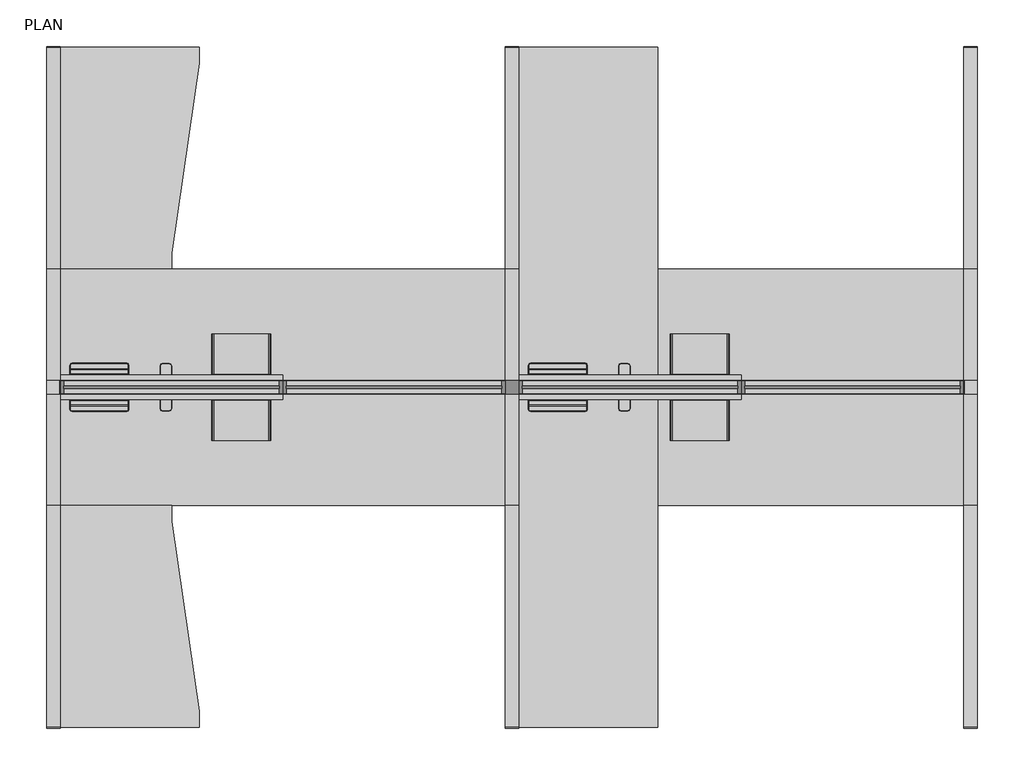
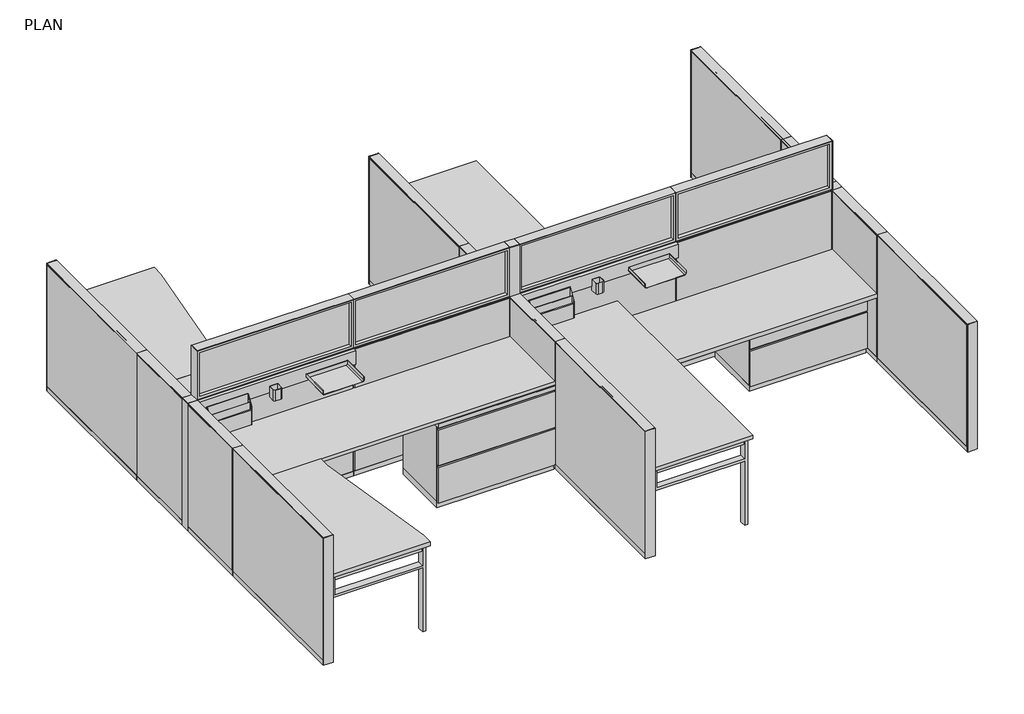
# One storey, incomplete: 51 furniture elements.
"""IFC4 building model written with IfcOpenShell, lengths in millimetres."""

from ifc_helpers import new_model, si_unit, origin, place, context, project, spatial, transform, mapped, element, save
from components import furniture_4366de90, furniture_c20d03a0, furniture_1deb3490, furniture_cbb8c3fb, haworth_belong_tool_cup_tool_cup_314b2932, haworth_belong_tool_cup_tool_cup_d6d42e5e, haworth_belong_tool_hanging_sorter_sorter_b643d65a, haworth_belong_tool_hanging_sorter_sorter_caf348c0, haworth_belong_tool_rail_belong_tool_rail_3fa934fc, haworth_belong_tool_rail_belong_tool_rail_29e77153, haworth_belong_tool_tray_shelf_hanging_document_tray_419b277c, haworth_belong_tool_tray_shelf_hanging_document_tray_81856eff, furniture_2538487b, furniture_432d4c5d, furniture_c4d0c9cf, furniture_53800ec9, furniture_b91f1926, furniture_50596205, furniture_6891fcb2, furniture_921a7b7d, furniture_8154873b, furniture_be341e5f, furniture_03610c70, furniture_a718f5ee, haworth_worksurface_compose_rectangular_85a0d244, haworth_worksurface_compose_rectangular_cbff0102, haworth_worksurface_compose_rectangular_214f8582, haworth_worksurface_compose_rectangular_7fee4319, furniture_72de7cf3, furniture_66076b28

model = new_model("IFC4")

# Units and contexts
model_context = context("Model", 3, world=origin())
ifc_project = project(units=[si_unit("LENGTHUNIT", "METRE", prefix="MILLI")], contexts=[model_context])

# Site, building, storey
site = spatial("IfcSite", under=ifc_project)
building = spatial("IfcBuilding", under=site)
storey = spatial("IfcBuildingStorey", under=building, Name="PLAN", Elevation=30480.0)

# Furniture
placement = place(None, origin())
furniture_shape = furniture_4366de90(model_context)
element("IfcFurniture", 1, ObjectType="Haworth_XSeries-Lateral_Files : 1.5 High - 36\" Width Proud", at=placement, inside=storey, context=model_context, shape_type="MappedRepresentation", body=[
    mapped(furniture_shape, transform((-8430.8149372, -24421.6388797, 30480.0), x_axis=(1.0, 0.0, 0.0), y_axis=(0.0, 1.0, 0.0), z_axis=(0.0, 0.0, 1.0))),
])
furniture_2_shape = furniture_c20d03a0(model_context)
element("IfcFurniture", 2, ObjectType="Haworth_XSeries-Lateral_Files : 1.5 High - 36\" Width Proud", at=placement, inside=storey, context=model_context, shape_type="MappedRepresentation", body=[
    mapped(furniture_2_shape, transform((-8430.8149372, -24345.4388797, 30480.0), x_axis=(1.0, 0.0, 0.0), y_axis=(0.0, 1.0, 0.0), z_axis=(0.0, 0.0, 1.0))),
])
furniture_3_shape = furniture_1deb3490(model_context)
element("IfcFurniture", 3, ObjectType="Haworth_XSeries-Lateral_Files : 2 High - 36\" Width Proud", at=placement, inside=storey, context=model_context, shape_type="MappedRepresentation", body=[
    mapped(furniture_3_shape, transform((-10943.8274372, -24212.0888797, 30480.0), x_axis=(1.0, 0.0, 0.0), y_axis=(0.0, 1.0, 0.0), z_axis=(0.0, 0.0, 1.0))),
])
furniture_4_shape = furniture_cbb8c3fb(model_context)
element("IfcFurniture", 4, ObjectType="Haworth_XSeries-Lateral_Files : 2 High - 36\" Width Proud", at=placement, inside=storey, context=model_context, shape_type="MappedRepresentation", body=[
    mapped(furniture_4_shape, transform((-10943.8274372, -24554.9888797, 30480.0), x_axis=(1.0, 0.0, 0.0), y_axis=(0.0, 1.0, 0.0), z_axis=(0.0, 0.0, 1.0))),
])
haworth_belong_tool_cup_tool_cup_shape = haworth_belong_tool_cup_tool_cup_314b2932(model_context)
element("IfcFurniture", 5, ObjectType="Haworth_Belong-Tool_Cup : Tool Cup", at=placement, inside=storey, context=model_context, shape_type="MappedRepresentation", body=[
    mapped(haworth_belong_tool_cup_tool_cup_shape, transform((-12513.8649372, -24450.2138797, 31397.575), x_axis=(1.0, 0.0, 0.0), y_axis=(0.0, 1.0, 0.0), z_axis=(0.0, 0.0, 1.0))),
])
element("IfcFurniture", 6, ObjectType="Haworth_Belong-Tool_Cup : Tool Cup", at=placement, inside=storey, context=model_context, shape_type="MappedRepresentation", body=[
    mapped(haworth_belong_tool_cup_tool_cup_shape, transform((-9999.2649372, -24450.2138797, 31397.575), x_axis=(1.0, 0.0, 0.0), y_axis=(0.0, 1.0, 0.0), z_axis=(0.0, 0.0, 1.0))),
])
haworth_belong_tool_cup_tool_cup_2_shape = haworth_belong_tool_cup_tool_cup_d6d42e5e(model_context)
element("IfcFurniture", 7, ObjectType="Haworth_Belong-Tool_Cup : Tool Cup", at=placement, inside=storey, context=model_context, shape_type="MappedRepresentation", body=[
    mapped(haworth_belong_tool_cup_tool_cup_2_shape, transform((-9999.2649372, -24316.8638797, 31397.575), x_axis=(1.0, 0.0, 0.0), y_axis=(0.0, 1.0, 0.0), z_axis=(0.0, 0.0, 1.0))),
])
element("IfcFurniture", 8, ObjectType="Haworth_Belong-Tool_Cup : Tool Cup", at=placement, inside=storey, context=model_context, shape_type="MappedRepresentation", body=[
    mapped(haworth_belong_tool_cup_tool_cup_2_shape, transform((-12513.8649372, -24316.8638797, 31397.575), x_axis=(1.0, 0.0, 0.0), y_axis=(0.0, 1.0, 0.0), z_axis=(0.0, 0.0, 1.0))),
])
haworth_belong_tool_hanging_sorter_sorter_shape = haworth_belong_tool_hanging_sorter_sorter_b643d65a(model_context)
element("IfcFurniture", 9, ObjectType="Haworth_Belong-Tool_Hanging-Sorter : Sorter", at=placement, inside=storey, context=model_context, shape_type="MappedRepresentation", body=[
    mapped(haworth_belong_tool_hanging_sorter_sorter_shape, transform((-12878.0040101, -24453.3888797, 31270.575), x_axis=(1.0, 0.0, 0.0), y_axis=(0.0, 1.0, 0.0), z_axis=(0.0, 0.0, 1.0))),
])
element("IfcFurniture", 10, ObjectType="Haworth_Belong-Tool_Hanging-Sorter : Sorter", at=placement, inside=storey, context=model_context, shape_type="MappedRepresentation", body=[
    mapped(haworth_belong_tool_hanging_sorter_sorter_shape, transform((-10363.4040101, -24453.3888797, 31270.575), x_axis=(1.0, 0.0, 0.0), y_axis=(0.0, 1.0, 0.0), z_axis=(0.0, 0.0, 1.0))),
])
haworth_belong_tool_hanging_sorter_sorter_2_shape = haworth_belong_tool_hanging_sorter_sorter_caf348c0(model_context)
element("IfcFurniture", 11, ObjectType="Haworth_Belong-Tool_Hanging-Sorter : Sorter", at=placement, inside=storey, context=model_context, shape_type="MappedRepresentation", body=[
    mapped(haworth_belong_tool_hanging_sorter_sorter_2_shape, transform((-10363.4040101, -24313.6888797, 31270.575), x_axis=(1.0, 0.0, 0.0), y_axis=(0.0, 1.0, 0.0), z_axis=(0.0, 0.0, 1.0))),
])
element("IfcFurniture", 12, ObjectType="Haworth_Belong-Tool_Hanging-Sorter : Sorter", at=placement, inside=storey, context=model_context, shape_type="MappedRepresentation", body=[
    mapped(haworth_belong_tool_hanging_sorter_sorter_2_shape, transform((-12878.0040101, -24313.6888797, 31270.575), x_axis=(1.0, 0.0, 0.0), y_axis=(0.0, 1.0, 0.0), z_axis=(0.0, 0.0, 1.0))),
])
haworth_belong_tool_rail_belong_tool_rail_shape = haworth_belong_tool_rail_belong_tool_rail_3fa934fc(model_context)
element("IfcFurniture", 13, ObjectType="Haworth_Belong-Tool_Rail : Belong Tool Rail", at=placement, inside=storey, context=model_context, shape_type="MappedRepresentation", body=[
    mapped(haworth_belong_tool_rail_belong_tool_rail_shape, transform((-12317.0149372, -24434.3388797, 30480.0), x_axis=(1.0, 0.0, 0.0), y_axis=(0.0, 1.0, 0.0), z_axis=(0.0, 0.0, 1.0))),
])
element("IfcFurniture", 14, ObjectType="Haworth_Belong-Tool_Rail : Belong Tool Rail", at=placement, inside=storey, context=model_context, shape_type="MappedRepresentation", body=[
    mapped(haworth_belong_tool_rail_belong_tool_rail_shape, transform((-9802.4149372, -24434.3388797, 30480.0), x_axis=(1.0, 0.0, 0.0), y_axis=(0.0, 1.0, 0.0), z_axis=(0.0, 0.0, 1.0))),
])
haworth_belong_tool_rail_belong_tool_rail_2_shape = haworth_belong_tool_rail_belong_tool_rail_29e77153(model_context)
element("IfcFurniture", 15, ObjectType="Haworth_Belong-Tool_Rail : Belong Tool Rail", at=placement, inside=storey, context=model_context, shape_type="MappedRepresentation", body=[
    mapped(haworth_belong_tool_rail_belong_tool_rail_2_shape, transform((-9802.4149372, -24332.7388797, 30480.0), x_axis=(1.0, 0.0, 0.0), y_axis=(0.0, 1.0, 0.0), z_axis=(0.0, 0.0, 1.0))),
])
element("IfcFurniture", 16, ObjectType="Haworth_Belong-Tool_Rail : Belong Tool Rail", at=placement, inside=storey, context=model_context, shape_type="MappedRepresentation", body=[
    mapped(haworth_belong_tool_rail_belong_tool_rail_2_shape, transform((-12317.0149372, -24332.7388797, 30480.0), x_axis=(1.0, 0.0, 0.0), y_axis=(0.0, 1.0, 0.0), z_axis=(0.0, 0.0, 1.0))),
])
haworth_belong_tool_tray_shelf_hanging_document_tray_shape = haworth_belong_tool_tray_shelf_hanging_document_tray_419b277c(model_context)
element("IfcFurniture", 17, ObjectType="Haworth_Belong-Tool_Tray_Shelf : Hanging Document Tray", at=placement, inside=storey, context=model_context, shape_type="MappedRepresentation", body=[
    mapped(haworth_belong_tool_tray_shelf_hanging_document_tray_shape, transform((-12099.2117515, -24450.2138797, 31448.375), x_axis=(1.0, 0.0, 0.0), y_axis=(0.0, 1.0, 0.0), z_axis=(0.0, 0.0, 1.0))),
])
element("IfcFurniture", 18, ObjectType="Haworth_Belong-Tool_Tray_Shelf : Hanging Document Tray", at=placement, inside=storey, context=model_context, shape_type="MappedRepresentation", body=[
    mapped(haworth_belong_tool_tray_shelf_hanging_document_tray_shape, transform((-9584.6117515, -24450.2138797, 31448.375), x_axis=(1.0, 0.0, 0.0), y_axis=(0.0, 1.0, 0.0), z_axis=(0.0, 0.0, 1.0))),
])
haworth_belong_tool_tray_shelf_hanging_document_tray_2_shape = haworth_belong_tool_tray_shelf_hanging_document_tray_81856eff(model_context)
element("IfcFurniture", 19, ObjectType="Haworth_Belong-Tool_Tray_Shelf : Hanging Document Tray", at=placement, inside=storey, context=model_context, shape_type="MappedRepresentation", body=[
    mapped(haworth_belong_tool_tray_shelf_hanging_document_tray_2_shape, transform((-9584.6117515, -24316.8638797, 31448.375), x_axis=(1.0, 0.0, 0.0), y_axis=(0.0, 1.0, 0.0), z_axis=(0.0, 0.0, 1.0))),
])
element("IfcFurniture", 20, ObjectType="Haworth_Belong-Tool_Tray_Shelf : Hanging Document Tray", at=placement, inside=storey, context=model_context, shape_type="MappedRepresentation", body=[
    mapped(haworth_belong_tool_tray_shelf_hanging_document_tray_2_shape, transform((-12099.2117515, -24316.8638797, 31448.375), x_axis=(1.0, 0.0, 0.0), y_axis=(0.0, 1.0, 0.0), z_axis=(0.0, 0.0, 1.0))),
])
furniture_5_shape = furniture_2538487b(model_context)
element("IfcFurniture", 21, ObjectType="Haworth_Compose-Panel-Glass_Stack : 48\" x 16\"", at=placement, inside=storey, context=model_context, shape_type="MappedRepresentation", body=[
    mapped(furniture_5_shape, transform((-9804.8552273, -24383.5388797, 30480.0), x_axis=(1.0, 0.0, 0.0), y_axis=(0.0, 1.0, 0.0), z_axis=(0.0, 0.0, 1.0))),
])
furniture_6_shape = furniture_432d4c5d(model_context)
element("IfcFurniture", 22, ObjectType="Haworth_Compose-Panel-Glass_Stack : 48\" x 16\"", at=placement, inside=storey, context=model_context, shape_type="MappedRepresentation", body=[
    mapped(furniture_6_shape, transform((-11095.374647, -24383.5388797, 30480.0), x_axis=(-1.0, 0.0, 0.0), y_axis=(0.0, -1.0, 0.0), z_axis=(0.0, 0.0, 1.0))),
])
furniture_7_shape = furniture_c4d0c9cf(model_context)
element("IfcFurniture", 23, ObjectType="Haworth_Compose-Panel-Glass_Stack : 48\" x 16\"", at=placement, inside=storey, context=model_context, shape_type="MappedRepresentation", body=[
    mapped(furniture_7_shape, transform((-8580.774647, -24383.5388797, 30480.0), x_axis=(-1.0, 0.0, 0.0), y_axis=(0.0, -1.0, 0.0), z_axis=(0.0, 0.0, 1.0))),
])
furniture_8_shape = furniture_53800ec9(model_context)
element("IfcFurniture", 24, ObjectType="Haworth_Compose-Panel-Glass_Stack : 48\" x 16\"", at=placement, inside=storey, context=model_context, shape_type="MappedRepresentation", body=[
    mapped(furniture_8_shape, transform((-12319.4552273, -24383.5388797, 30480.0), x_axis=(1.0, 0.0, 0.0), y_axis=(0.0, 1.0, 0.0), z_axis=(0.0, 0.0, 1.0))),
])
furniture_9_shape = furniture_b91f1926(model_context)
element("IfcFurniture", 25, ObjectType="Haworth_Compose-Panel-Solid : 42\" x 24\"", at=placement, inside=storey, context=model_context, shape_type="MappedRepresentation", body=[
    mapped(furniture_9_shape, transform((-7935.5149372, -24723.9985895, 30480.0), x_axis=(0.0, -1.0, 0.0), y_axis=(1.0, 0.0, 0.0), z_axis=(0.0, 0.0, 1.0))),
])
element("IfcFurniture", 26, ObjectType="Haworth_Compose-Panel-Solid : 42\" x 24\"", at=placement, inside=storey, context=model_context, shape_type="MappedRepresentation", body=[
    mapped(furniture_9_shape, transform((-10450.1149372, -24723.9985895, 30480.0), x_axis=(0.0, -1.0, 0.0), y_axis=(1.0, 0.0, 0.0), z_axis=(0.0, 0.0, 1.0))),
])
element("IfcFurniture", 27, ObjectType="Haworth_Compose-Panel-Solid : 42\" x 24\"", at=placement, inside=storey, context=model_context, shape_type="MappedRepresentation", body=[
    mapped(furniture_9_shape, transform((-12964.7149372, -24043.0791699, 30480.0), x_axis=(0.0, 1.0, 0.0), y_axis=(-1.0, 0.0, 0.0), z_axis=(0.0, 0.0, 1.0))),
])
furniture_10_shape = furniture_50596205(model_context)
element("IfcFurniture", 28, ObjectType="Haworth_Compose-Panel-Solid : 42\" x 24\"", at=placement, inside=storey, context=model_context, shape_type="MappedRepresentation", body=[
    mapped(furniture_10_shape, transform((-7935.5149372, -24043.0791699, 30480.0), x_axis=(0.0, 1.0, 0.0), y_axis=(-1.0, 0.0, 0.0), z_axis=(0.0, 0.0, 1.0))),
])
element("IfcFurniture", 29, ObjectType="Haworth_Compose-Panel-Solid : 42\" x 24\"", at=placement, inside=storey, context=model_context, shape_type="MappedRepresentation", body=[
    mapped(furniture_10_shape, transform((-10450.1149372, -24043.0791699, 30480.0), x_axis=(0.0, 1.0, 0.0), y_axis=(-1.0, 0.0, 0.0), z_axis=(0.0, 0.0, 1.0))),
])
element("IfcFurniture", 30, ObjectType="Haworth_Compose-Panel-Solid : 42\" x 24\"", at=placement, inside=storey, context=model_context, shape_type="MappedRepresentation", body=[
    mapped(furniture_10_shape, transform((-12964.7149372, -24723.9985895, 30480.0), x_axis=(0.0, -1.0, 0.0), y_axis=(1.0, 0.0, 0.0), z_axis=(0.0, 0.0, 1.0))),
])
furniture_11_shape = furniture_6891fcb2(model_context)
element("IfcFurniture", 31, ObjectType="Haworth_Compose-Panel-Solid : 42\" x 48\"", at=placement, inside=storey, context=model_context, shape_type="MappedRepresentation", body=[
    mapped(furniture_11_shape, transform((-7935.5149372, -25638.3985895, 30480.0), x_axis=(0.0, -1.0, 0.0), y_axis=(1.0, 0.0, 0.0), z_axis=(0.0, 0.0, 1.0))),
])
element("IfcFurniture", 32, ObjectType="Haworth_Compose-Panel-Solid : 42\" x 48\"", at=placement, inside=storey, context=model_context, shape_type="MappedRepresentation", body=[
    mapped(furniture_11_shape, transform((-10450.1149372, -25638.3985895, 30480.0), x_axis=(0.0, -1.0, 0.0), y_axis=(1.0, 0.0, 0.0), z_axis=(0.0, 0.0, 1.0))),
])
element("IfcFurniture", 33, ObjectType="Haworth_Compose-Panel-Solid : 42\" x 48\"", at=placement, inside=storey, context=model_context, shape_type="MappedRepresentation", body=[
    mapped(furniture_11_shape, transform((-12964.7149372, -23128.6791699, 30480.0), x_axis=(0.0, 1.0, 0.0), y_axis=(-1.0, 0.0, 0.0), z_axis=(0.0, 0.0, 1.0))),
])
furniture_12_shape = furniture_921a7b7d(model_context)
element("IfcFurniture", 34, ObjectType="Haworth_Compose-Panel-Solid : 42\" x 48\"", at=placement, inside=storey, context=model_context, shape_type="MappedRepresentation", body=[
    mapped(furniture_12_shape, transform((-11100.2552273, -24383.5388797, 30480.0), x_axis=(1.0, 0.0, 0.0), y_axis=(0.0, 1.0, 0.0), z_axis=(0.0, 0.0, 1.0))),
])
element("IfcFurniture", 35, ObjectType="Haworth_Compose-Panel-Solid : 42\" x 48\"", at=placement, inside=storey, context=model_context, shape_type="MappedRepresentation", body=[
    mapped(furniture_12_shape, transform((-12319.4552273, -24383.5388797, 30480.0), x_axis=(1.0, 0.0, 0.0), y_axis=(0.0, 1.0, 0.0), z_axis=(0.0, 0.0, 1.0))),
])
furniture_13_shape = furniture_8154873b(model_context)
element("IfcFurniture", 36, ObjectType="Haworth_Compose-Panel-Solid : 42\" x 48\"", at=placement, inside=storey, context=model_context, shape_type="MappedRepresentation", body=[
    mapped(furniture_13_shape, transform((-9799.974647, -24383.5388797, 30480.0), x_axis=(-1.0, 0.0, 0.0), y_axis=(0.0, -1.0, 0.0), z_axis=(0.0, 0.0, 1.0))),
])
element("IfcFurniture", 37, ObjectType="Haworth_Compose-Panel-Solid : 42\" x 48\"", at=placement, inside=storey, context=model_context, shape_type="MappedRepresentation", body=[
    mapped(furniture_13_shape, transform((-8580.774647, -24383.5388797, 30480.0), x_axis=(-1.0, 0.0, 0.0), y_axis=(0.0, -1.0, 0.0), z_axis=(0.0, 0.0, 1.0))),
])
furniture_14_shape = furniture_be341e5f(model_context)
element("IfcFurniture", 38, ObjectType="Haworth_Compose-Panel-Solid : 42\" x 48\"", at=placement, inside=storey, context=model_context, shape_type="MappedRepresentation", body=[
    mapped(furniture_14_shape, transform((-7935.5149372, -23128.6791699, 30480.0), x_axis=(0.0, 1.0, 0.0), y_axis=(-1.0, 0.0, 0.0), z_axis=(0.0, 0.0, 1.0))),
])
element("IfcFurniture", 39, ObjectType="Haworth_Compose-Panel-Solid : 42\" x 48\"", at=placement, inside=storey, context=model_context, shape_type="MappedRepresentation", body=[
    mapped(furniture_14_shape, transform((-10450.1149372, -23128.6791699, 30480.0), x_axis=(0.0, 1.0, 0.0), y_axis=(-1.0, 0.0, 0.0), z_axis=(0.0, 0.0, 1.0))),
])
element("IfcFurniture", 40, ObjectType="Haworth_Compose-Panel-Solid : 42\" x 48\"", at=placement, inside=storey, context=model_context, shape_type="MappedRepresentation", body=[
    mapped(furniture_14_shape, transform((-12964.7149372, -25638.3985895, 30480.0), x_axis=(0.0, -1.0, 0.0), y_axis=(1.0, 0.0, 0.0), z_axis=(0.0, 0.0, 1.0))),
])
furniture_15_shape = furniture_03610c70(model_context)
element("IfcFurniture", 41, ObjectType="Haworth_Compose-Panel_Accessories-Post : 42\" High - 3-Way Intersection", at=placement, inside=storey, context=model_context, shape_type="MappedRepresentation", body=[
    mapped(furniture_15_shape, transform((-7973.6149372, -24383.5388797, 30480.0), x_axis=(1.0, 0.0, 0.0), y_axis=(0.0, 1.0, 0.0), z_axis=(0.0, 0.0, 1.0))),
])
element("IfcFurniture", 42, ObjectType="Haworth_Compose-Panel_Accessories-Post : 42\" High - 3-Way Intersection", at=placement, inside=storey, context=model_context, shape_type="MappedRepresentation", body=[
    mapped(furniture_15_shape, transform((-13002.8149372, -24383.5388797, 30480.0), x_axis=(1.0, 0.0, 0.0), y_axis=(0.0, 1.0, 0.0), z_axis=(0.0, 0.0, 1.0))),
])
furniture_16_shape = furniture_a718f5ee(model_context)
element("IfcFurniture", 43, ObjectType="Haworth_Compose-Panel_Accessories-Post : 58\" High - 4-Way Intersection", at=placement, inside=storey, context=model_context, shape_type="MappedRepresentation", body=[
    mapped(furniture_16_shape, transform((-10488.2149372, -24383.5388797, 30480.0), x_axis=(1.0, 0.0, 0.0), y_axis=(0.0, 1.0, 0.0), z_axis=(0.0, 0.0, 1.0))),
])
haworth_worksurface_compose_rectangular_shape = haworth_worksurface_compose_rectangular_85a0d244(model_context)
element("IfcFurniture", 44, ObjectType="Haworth_Worksurface_Compose-Rectangular : 24'' x 96''", at=placement, inside=storey, context=model_context, shape_type="MappedRepresentation", body=[
    mapped(haworth_worksurface_compose_rectangular_shape, transform((-11707.4149372, -24726.4388797, 30480.0), x_axis=(1.0, 0.0, 0.0), y_axis=(0.0, 1.0, 0.0), z_axis=(0.0, 0.0, 1.0))),
])
element("IfcFurniture", 45, ObjectType="Haworth_Worksurface_Compose-Rectangular : 24'' x 96''", at=placement, inside=storey, context=model_context, shape_type="MappedRepresentation", body=[
    mapped(haworth_worksurface_compose_rectangular_shape, transform((-9192.8149372, -24726.4388797, 30319.6625), x_axis=(1.0, 0.0, 0.0), y_axis=(0.0, 1.0, 0.0), z_axis=(0.0, 0.0, 1.0))),
])
haworth_worksurface_compose_rectangular_2_shape = haworth_worksurface_compose_rectangular_cbff0102(model_context)
element("IfcFurniture", 46, ObjectType="Haworth_Worksurface_Compose-Rectangular : 24'' x 96''", at=placement, inside=storey, context=model_context, shape_type="MappedRepresentation", body=[
    mapped(haworth_worksurface_compose_rectangular_2_shape, transform((-11707.4149372, -24040.6388797, 30480.0), x_axis=(1.0, 0.0, 0.0), y_axis=(0.0, 1.0, 0.0), z_axis=(0.0, 0.0, 1.0))),
])
element("IfcFurniture", 47, ObjectType="Haworth_Worksurface_Compose-Rectangular : 24'' x 96''", at=placement, inside=storey, context=model_context, shape_type="MappedRepresentation", body=[
    mapped(haworth_worksurface_compose_rectangular_2_shape, transform((-9192.8149372, -24040.6388797, 30319.6625), x_axis=(1.0, 0.0, 0.0), y_axis=(0.0, 1.0, 0.0), z_axis=(0.0, 0.0, 1.0))),
])
haworth_worksurface_compose_rectangular_3_shape = haworth_worksurface_compose_rectangular_214f8582(model_context)
element("IfcFurniture", 48, ObjectType="Haworth_Worksurface_Compose-Rectangular : 30'' x 72''", at=placement, inside=storey, context=model_context, shape_type="MappedRepresentation", body=[
    mapped(haworth_worksurface_compose_rectangular_3_shape, transform((-10031.0149372, -25336.0388797, 30480.0), x_axis=(0.0, 1.0, 0.0), y_axis=(-1.0, 0.0, 0.0), z_axis=(0.0, 0.0, 1.0))),
])
haworth_worksurface_compose_rectangular_4_shape = haworth_worksurface_compose_rectangular_7fee4319(model_context)
element("IfcFurniture", 49, ObjectType="Haworth_Worksurface_Compose-Rectangular : 30'' x 72''", at=placement, inside=storey, context=model_context, shape_type="MappedRepresentation", body=[
    mapped(haworth_worksurface_compose_rectangular_4_shape, transform((-10031.0149372, -23431.0388797, 30480.0), x_axis=(0.0, -1.0, 0.0), y_axis=(1.0, 0.0, 0.0), z_axis=(0.0, 0.0, 1.0))),
])
furniture_17_shape = furniture_72de7cf3(model_context)
element("IfcFurniture", 50, ObjectType="Haworth_Worksurface_Compose-Wedge : 24\"/30\" x 48\"", at=placement, inside=storey, context=model_context, shape_type="MappedRepresentation", body=[
    mapped(furniture_17_shape, transform((-12545.6149372, -25640.8388797, 30480.0), x_axis=(0.0, 1.0, 0.0), y_axis=(-1.0, 0.0, 0.0), z_axis=(0.0, 0.0, 1.0))),
])
furniture_18_shape = furniture_66076b28(model_context)
element("IfcFurniture", 51, ObjectType="Haworth_Worksurface_Compose-Wedge : 24\"/30\" x 48\"", at=placement, inside=storey, context=model_context, shape_type="MappedRepresentation", body=[
    mapped(furniture_18_shape, transform((-12545.6149372, -23126.2388797, 30480.0), x_axis=(0.0, -1.0, 0.0), y_axis=(1.0, 0.0, 0.0), z_axis=(0.0, 0.0, 1.0))),
])

save(model, "model.ifc")
